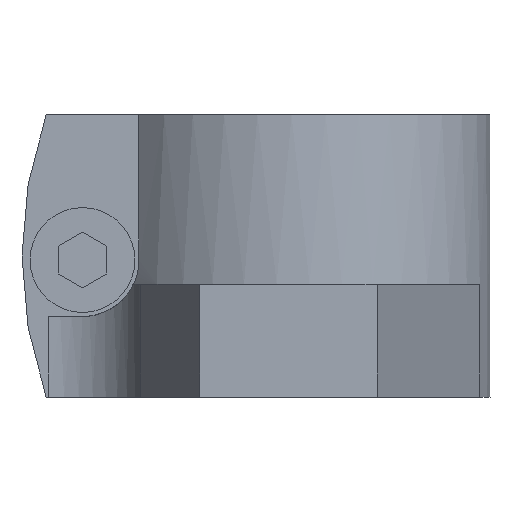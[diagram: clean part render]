
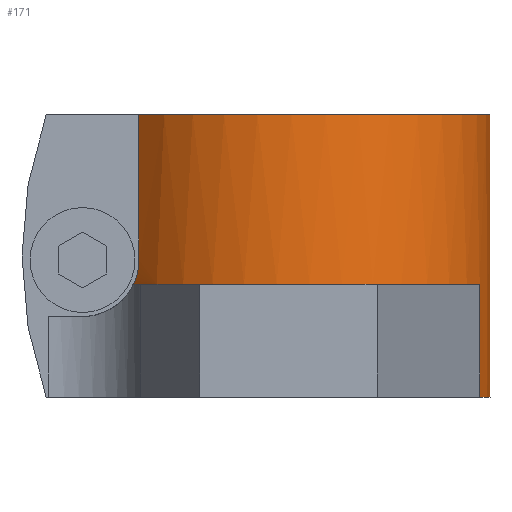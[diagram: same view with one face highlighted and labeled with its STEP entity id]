
A CAD part, left-side view. The second image highlights one B-rep face of the part: STEP entity #171.
In plain terms, the highlighted cylindrical face has radius 25 mm (diameter 50 mm), a partial arc.
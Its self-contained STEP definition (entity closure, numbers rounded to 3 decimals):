
#171=ADVANCED_FACE('',(#216),#217,.T.);
#216=FACE_OUTER_BOUND('',#320,.T.);
#217=CYLINDRICAL_SURFACE('',#321,25.0);
#320=EDGE_LOOP('',(#424,#425,#426,#427,#428,#429,#430,#431,#432));
#321=AXIS2_PLACEMENT_3D('',#433,#434,#435);
#424=ORIENTED_EDGE('',*,*,#761,.T.);
#425=ORIENTED_EDGE('',*,*,#762,.F.);
#426=ORIENTED_EDGE('',*,*,#763,.T.);
#427=ORIENTED_EDGE('',*,*,#764,.T.);
#428=ORIENTED_EDGE('',*,*,#765,.T.);
#429=ORIENTED_EDGE('',*,*,#766,.F.);
#430=ORIENTED_EDGE('',*,*,#767,.F.);
#431=ORIENTED_EDGE('',*,*,#768,.T.);
#432=ORIENTED_EDGE('',*,*,#769,.T.);
#433=CARTESIAN_POINT('',(0.0,0.0,21.0));
#434=DIRECTION('',(-0.0,-0.0,1.0));
#435=DIRECTION('',(1.0,0.0,0.0));
#761=EDGE_CURVE('',#865,#866,#867,.T.);
#762=EDGE_CURVE('',#868,#866,#869,.T.);
#763=EDGE_CURVE('',#868,#870,#871,.T.);
#764=EDGE_CURVE('',#870,#872,#873,.T.);
#765=EDGE_CURVE('',#872,#874,#875,.T.);
#766=EDGE_CURVE('',#876,#874,#877,.T.);
#767=EDGE_CURVE('',#878,#876,#879,.T.);
#768=EDGE_CURVE('',#878,#880,#881,.T.);
#769=EDGE_CURVE('',#880,#865,#882,.T.);
#865=VERTEX_POINT('',#1041);
#866=VERTEX_POINT('',#1042);
#867=CIRCLE('',#1043,25.0);
#868=VERTEX_POINT('',#1044);
#869=LINE('',#1045,#1046);
#870=VERTEX_POINT('',#1047);
#871=CIRCLE('',#1048,25.0);
#872=VERTEX_POINT('',#1049);
#873=LINE('',#1050,#1051);
#874=VERTEX_POINT('',#1052);
#875=CIRCLE('',#1053,25.0);
#876=VERTEX_POINT('',#1054);
#877=LINE('',#1055,#1056);
#878=VERTEX_POINT('',#1057);
#879=CIRCLE('',#1058,25.0);
#880=VERTEX_POINT('',#1059);
#881=LINE('',#1060,#1061);
#882=B_SPLINE_CURVE_WITH_KNOTS('',3,(#1062,#1063,#1064,#1065,#1066,#1067,#1068,#1069),.UNSPECIFIED.,.F.,.F.,(4,2,2,4),(0.0,0.002,0.002,0.003),.UNSPECIFIED.);
#1041=CARTESIAN_POINT('',(-16.041,19.175,0.0));
#1042=CARTESIAN_POINT('',(-7.916,-23.714,0.0));
#1043=AXIS2_PLACEMENT_3D('',#1346,#1347,#1348);
#1044=CARTESIAN_POINT('',(-7.916,-23.714,-14.0));
#1045=CARTESIAN_POINT('',(-7.916,-23.714,-14.0));
#1046=VECTOR('',#1349,1.0);
#1047=CARTESIAN_POINT('',(7.916,-23.714,-14.0));
#1048=AXIS2_PLACEMENT_3D('',#1350,#1351,#1352);
#1049=CARTESIAN_POINT('',(7.916,-23.714,0.0));
#1050=CARTESIAN_POINT('',(7.916,-23.714,-14.0));
#1051=VECTOR('',#1353,1.0);
#1052=CARTESIAN_POINT('',(17.742,17.613,0.0));
#1053=AXIS2_PLACEMENT_3D('',#1354,#1355,#1356);
#1054=CARTESIAN_POINT('',(17.742,17.613,21.0));
#1055=CARTESIAN_POINT('',(17.742,17.613,21.0));
#1056=VECTOR('',#1357,1.0);
#1057=CARTESIAN_POINT('',(-16.815,18.5,21.0));
#1058=AXIS2_PLACEMENT_3D('',#1358,#1359,#1360);
#1059=CARTESIAN_POINT('',(-16.815,18.5,3.0));
#1060=CARTESIAN_POINT('',(-16.815,18.5,21.0));
#1061=VECTOR('',#1361,1.0);
#1062=CARTESIAN_POINT('',(-16.815,18.5,3.0));
#1063=CARTESIAN_POINT('',(-16.815,18.5,2.457));
#1064=CARTESIAN_POINT('',(-16.747,18.562,1.931));
#1065=CARTESIAN_POINT('',(-16.548,18.74,1.165));
#1066=CARTESIAN_POINT('',(-16.466,18.812,0.918));
#1067=CARTESIAN_POINT('',(-16.274,18.978,0.445));
#1068=CARTESIAN_POINT('',(-16.164,19.072,0.218));
#1069=CARTESIAN_POINT('',(-16.041,19.175,0.));
#1346=CARTESIAN_POINT('',(0.0,0.0,0.0));
#1347=DIRECTION('',(0.0,0.0,1.0));
#1348=DIRECTION('',(1.0,0.0,0.0));
#1349=DIRECTION('',(0.0,0.0,1.0));
#1350=CARTESIAN_POINT('',(0.,0.0,-14.0));
#1351=DIRECTION('',(0.0,0.0,1.0));
#1352=DIRECTION('',(1.0,0.0,0.0));
#1353=DIRECTION('',(0.0,0.0,1.0));
#1354=CARTESIAN_POINT('',(0.0,0.0,0.0));
#1355=DIRECTION('',(0.0,0.0,1.0));
#1356=DIRECTION('',(1.0,0.0,0.0));
#1357=DIRECTION('',(0.0,0.0,-1.0));
#1358=CARTESIAN_POINT('',(0.0,0.0,21.0));
#1359=DIRECTION('',(0.0,0.0,1.0));
#1360=DIRECTION('',(1.0,0.0,0.0));
#1361=DIRECTION('',(0.0,0.0,-1.0));
